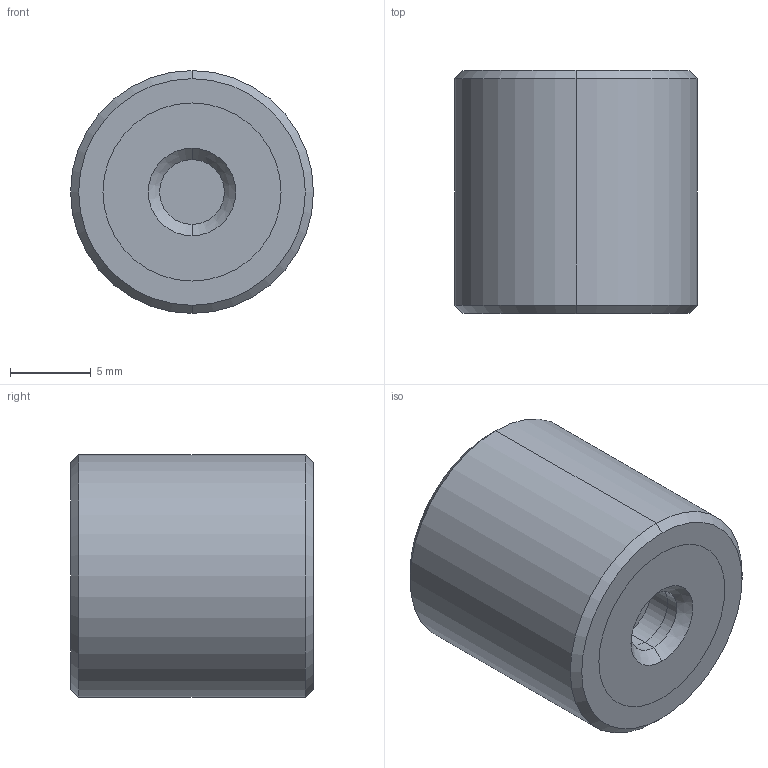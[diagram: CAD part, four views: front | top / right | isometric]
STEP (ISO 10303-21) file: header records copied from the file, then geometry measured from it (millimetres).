
FILE_DESCRIPTION (( 'STEP AP203' ), '1' );
FILE_NAME ('61080.W0151.step', '2018-07-16T20:41:33', ( '' ), ( '' ), 'SwSTEP 2.0', 'SolidWorks 2017', '' );
FILE_SCHEMA (( 'CONFIG_CONTROL_DESIGN' ));
Length unit declared in the file: millimetre
Products named in the file (4): Part3_61080.W0151; Part2_61080.W0151; 61080.W0151; Part1_61080.W0151
Assembly tree (3 placements, depth 2):
  61080.W0151
    Part1_61080.W0151
    Part2_61080.W0151
    Part3_61080.W0151
Bounding box: 15 x 15 x 15 mm (x, y, z)
Volume: 2556.9 mm3; surface area: 1635.6 mm2
Topology: 3 solids, 3 shells, 36 faces, 70 edges, 44 vertices
Faces by surface type: cylinder 18, plane 10, cone 8
Entity records: 1356 total; most frequent: DIRECTION 198, CARTESIAN_POINT 156, ORIENTED_EDGE 140, AXIS2_PLACEMENT_3D 86, EDGE_CURVE 70, VERTEX_POINT 44, CIRCLE 44, EDGE_LOOP 44
